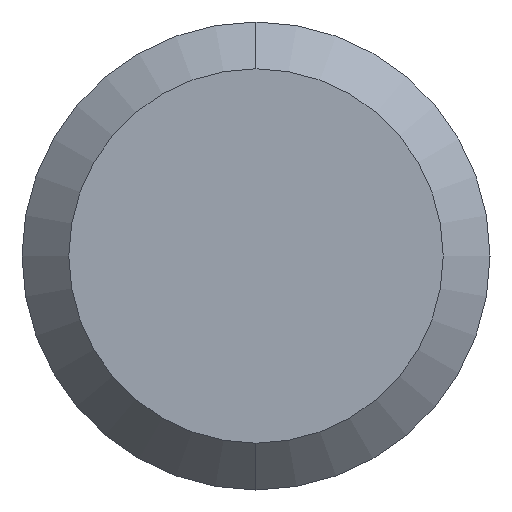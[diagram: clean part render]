
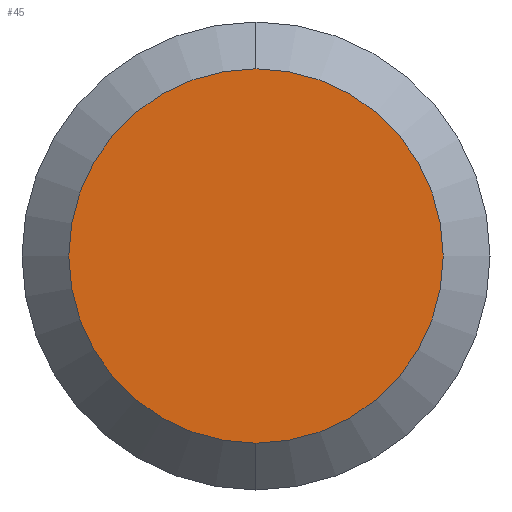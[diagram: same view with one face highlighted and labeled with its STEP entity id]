
A CAD part, left-side view. The second image highlights one B-rep face of the part: STEP entity #45.
In plain terms, the highlighted planar face has unit normal (-1, 0, 0).
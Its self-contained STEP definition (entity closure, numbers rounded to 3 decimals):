
#11 = DIRECTION ( 'NONE',  ( 1., 0., 0. ) ) ;
#23 = ORIENTED_EDGE ( 'NONE', *, *, #208, .T. ) ;
#26 = EDGE_CURVE ( 'NONE', #140, #65, #234, .T. ) ;
#40 = DIRECTION ( 'NONE',  ( 0., 0., -1. ) ) ;
#45 = ADVANCED_FACE ( 'NONE', ( #323 ), #203, .F. ) ;
#61 = CARTESIAN_POINT ( 'NONE',  ( 0., 0., -1. ) ) ;
#65 = VERTEX_POINT ( 'NONE', #61 ) ;
#96 = CARTESIAN_POINT ( 'NONE',  ( 0., 1., 0. ) ) ;
#125 = DIRECTION ( 'NONE',  ( -1., 0., 0. ) ) ;
#140 = VERTEX_POINT ( 'NONE', #303 ) ;
#148 = DIRECTION ( 'NONE',  ( 0., 0., 1. ) ) ;
#171 = CARTESIAN_POINT ( 'NONE',  ( 0., 0., 0. ) ) ;
#175 = AXIS2_PLACEMENT_3D ( 'NONE', #286, #125, #148 ) ;
#203 = PLANE ( 'NONE',  #266 ) ;
#208 = EDGE_CURVE ( 'NONE', #65, #140, #247, .T. ) ;
#234 = CIRCLE ( 'NONE', #175, 1. ) ;
#239 = DIRECTION ( 'NONE',  ( -1., 0., 0. ) ) ;
#245 = AXIS2_PLACEMENT_3D ( 'NONE', #171, #239, #321 ) ;
#247 = CIRCLE ( 'NONE', #245, 1. ) ;
#266 = AXIS2_PLACEMENT_3D ( 'NONE', #96, #11, #40 ) ;
#286 = CARTESIAN_POINT ( 'NONE',  ( 0., 0., 0. ) ) ;
#289 = ORIENTED_EDGE ( 'NONE', *, *, #26, .T. ) ;
#303 = CARTESIAN_POINT ( 'NONE',  ( 0., 0., 1. ) ) ;
#321 = DIRECTION ( 'NONE',  ( 0., 0., 1. ) ) ;
#323 = FACE_OUTER_BOUND ( 'NONE', #331, .T. ) ;
#331 = EDGE_LOOP ( 'NONE', ( #23, #289 ) ) ;
